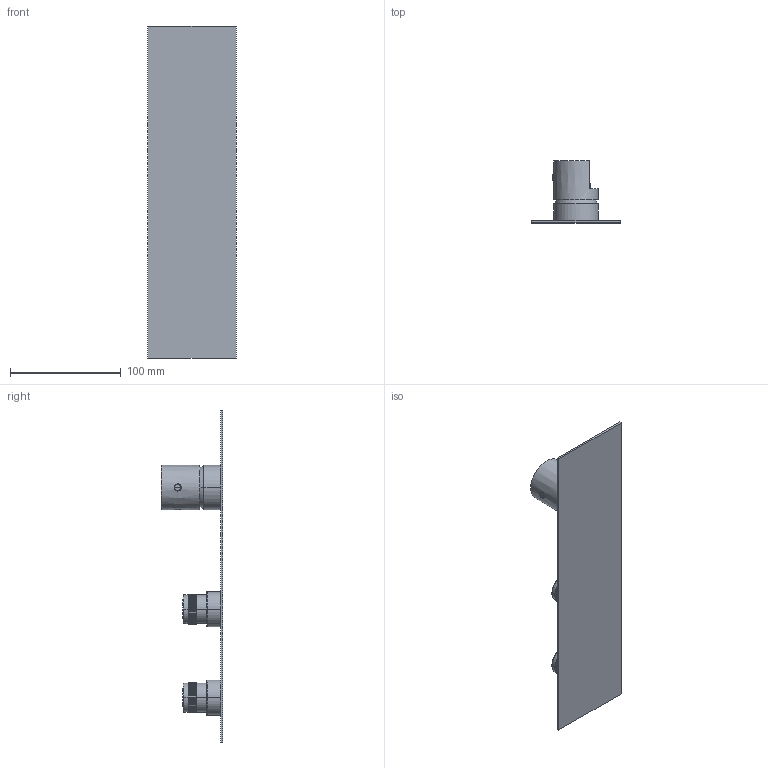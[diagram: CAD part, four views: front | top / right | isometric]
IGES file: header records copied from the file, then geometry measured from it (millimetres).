
Start section:  PTC IGES file: 89000v2.igs
Global section: file name: 89000v2.igs; native system: Creo Parametric by PTC Inc.; preprocessor: 2022014; author: carloff; organization: Unknown; date: 20251125.101845; units: millimetre
Bounding box: 80 x 55.7 x 300 mm (x, y, z)
Surface area: 63131.8 mm2 (no closed solid volume)
Topology: 0 solids, 0 shells, 3309 faces, 16484 edges, 16478 vertices
Faces by surface type: bspline 2583, revolution 726
